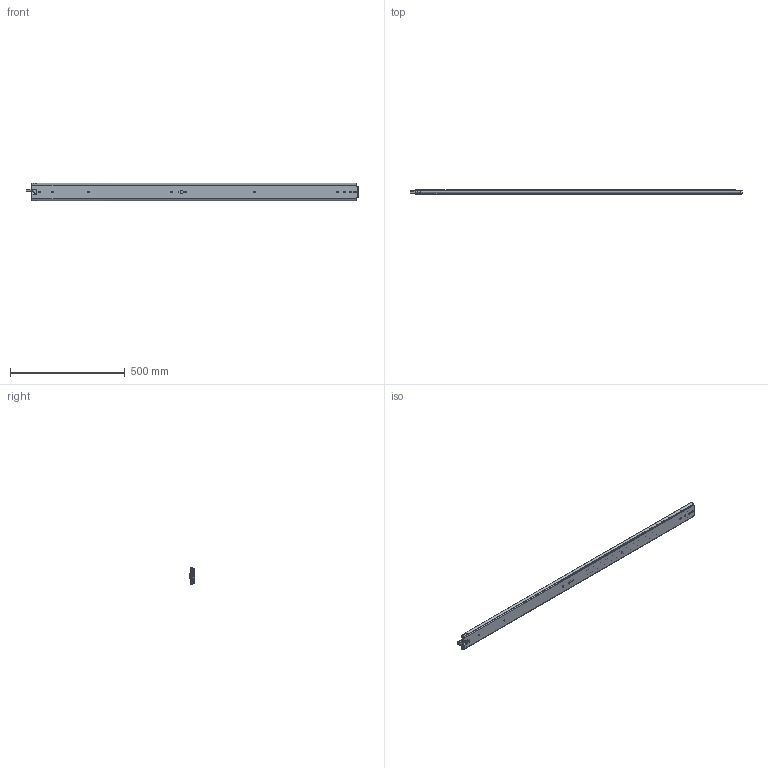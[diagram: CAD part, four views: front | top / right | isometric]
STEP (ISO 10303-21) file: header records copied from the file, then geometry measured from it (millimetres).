
FILE_DESCRIPTION((''),'2;1');
FILE_NAME('DG-76-3S-56YOU_ASM','2023-05-11T',('jishu015'),(''),'PRO/ENGINEER BY PARAMETRIC TECHNOLOGY CORPORATION, 2010280','PRO/ENGINEER BY PARAMETRIC TECHNOLOGY CORPORATION, 2010280','');
FILE_SCHEMA(('CONFIG_CONTROL_DESIGN'));
Products named in the file (29): KP-76-04WAIKE-181621; 1076-WAIKEZIDANJIAO1621___; WAIK16_______________ASM; 1076XIAOZHUTIAO-2251621___; 16______________; 1076XIAOZHUTIAO-1751621____ASM; KP-76-04ZHONGGUI181611__; 76CHANGGUIZHONGGUIJIAO16221; 3X6WODIN16______________; ZHONGGUIBAIKOU16______________; PJ-76-30_____________; PJ-76-03_____________; 76-XIAOZHUJIA-11_____________; GANGZHU-XIAO_____________; ZHUJIA-XIAO______________ASM; ZHONGGUI6_______________ASM; KP-76-04NEIGUI181621; PJ-76-31_____________; DAOGPIAN16______________; 1053-3SBANJ01_____________; JIAO-11_____________; 76XINSUOKOU_____________; PJ-338_____________; PJ-356_____________; PJ-357_____________; PJ-336_____________; M4X4_____________; NEIGUI16_______________ASM; DG-76-3S-56YOU_ASM
Assembly tree (108 placements, depth 4):
  DG-76-3S-56YOU_ASM
    WAIK16_______________ASM
      KP-76-04WAIKE-181621
      1076-WAIKEZIDANJIAO1621___  x2
    1076XIAOZHUTIAO-1751621____ASM  x2
      1076XIAOZHUTIAO-2251621___
      16______________
    ZHONGGUI6_______________ASM
      KP-76-04ZHONGGUI181611__
      76CHANGGUIZHONGGUIJIAO16221
      3X6WODIN16______________
      ZHONGGUIBAIKOU16______________
      PJ-76-30_____________
      PJ-76-03_____________
      ZHUJIA-XIAO______________ASM
        76-XIAOZHUJIA-11_____________
        GANGZHU-XIAO_____________  x54
    NEIGUI16_______________ASM
      KP-76-04NEIGUI181621
      PJ-76-31_____________
      DAOGPIAN16______________
      1053-3SBANJ01_____________
      JIAO-11_____________
      76XINSUOKOU_____________
      PJ-338_____________
      PJ-356_____________
      PJ-357_____________
      PJ-336_____________
      M4X4_____________
Bounding box: 1448.32 x 20.7 x 75.3 mm (x, y, z)
Volume: 942204.3 mm3; surface area: 908434.8 mm2
Topology: 130 solids, 130 shells, 2962 faces, 9106 edges, 5733 vertices
Faces by surface type: plane 1535, cylinder 1081, sphere 219, bspline 60, cone 28, extrusion 23, torus 16
Entity records: 93589 total; most frequent: CARTESIAN_POINT 24603, ORIENTED_EDGE 15216, DIRECTION 13595, EDGE_CURVE 7608, VERTEX_POINT 4957, AXIS2_PLACEMENT_3D 4705, VECTOR 4185, LINE 4162
